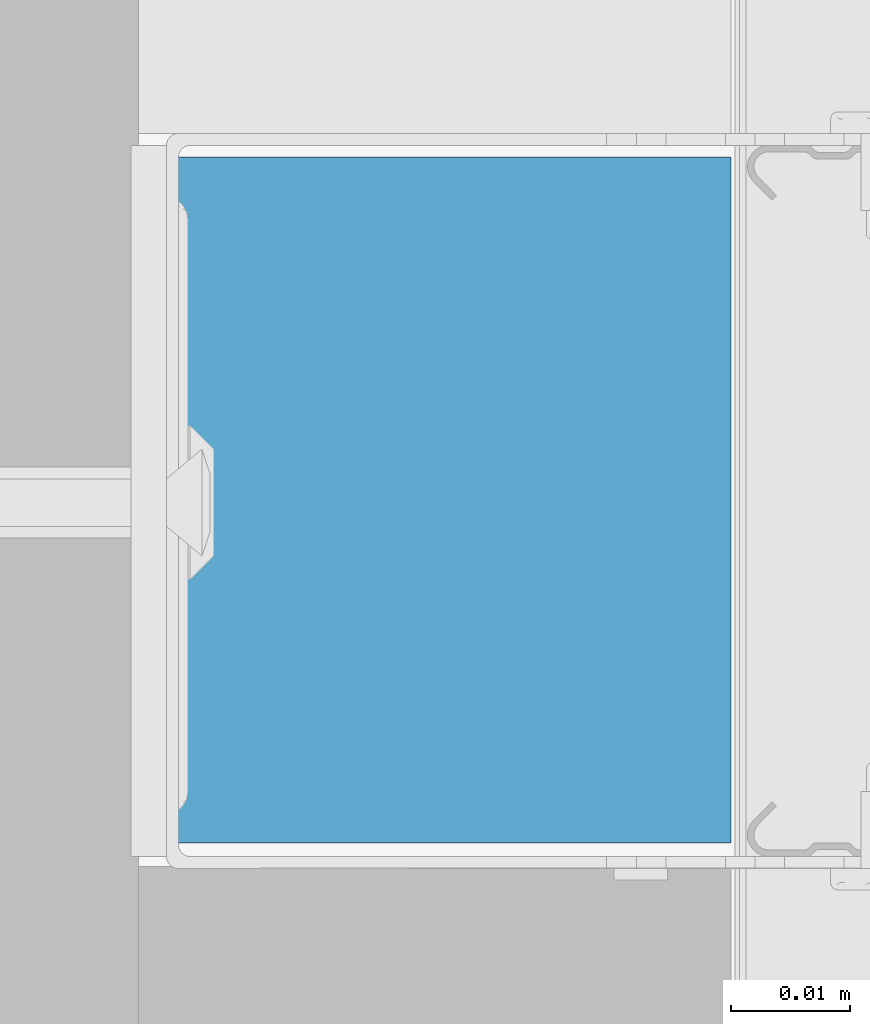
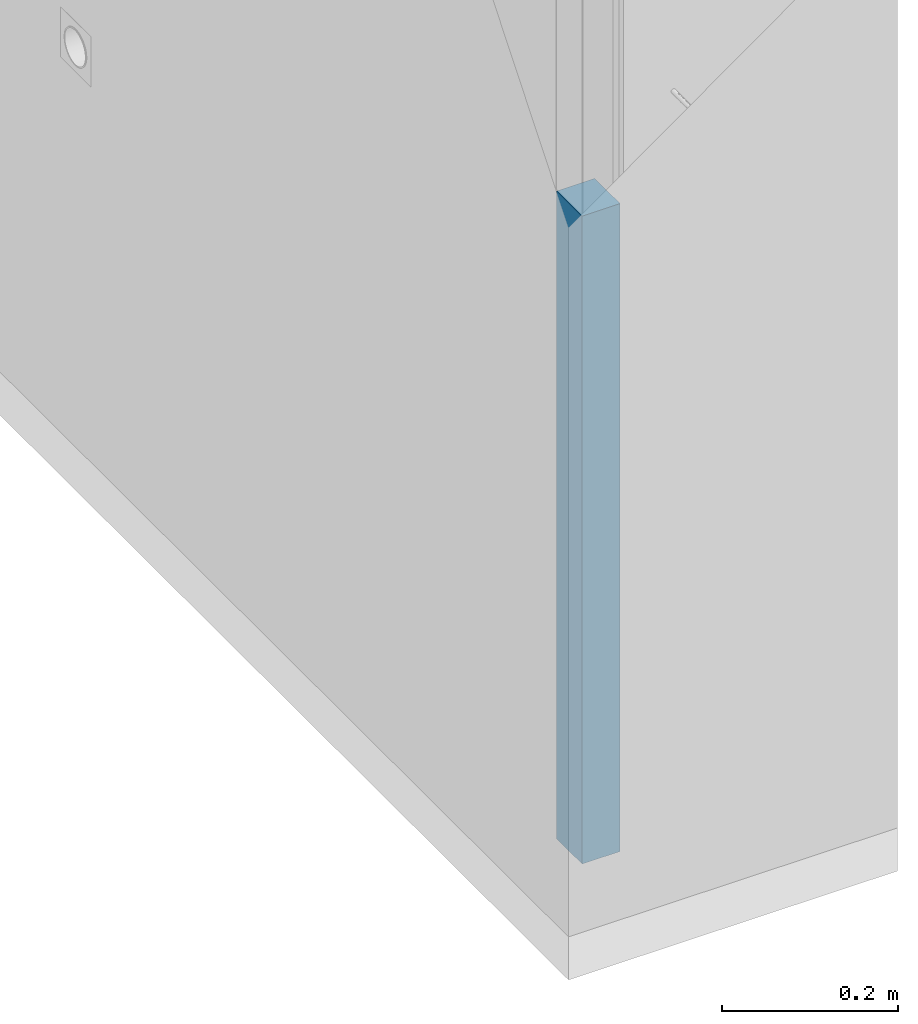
# One storey, part 7 of 61: 1 wall.
"""IFC2X3 building model written with IfcOpenShell, lengths in millimetres."""

from ifc_helpers import new_model, si_unit, frame, origin_with_axes, place, context, subcontext, project, spatial, faceted_brep, material, type_object, element, save


model = new_model("IFC2X3")

# Units and contexts
model_context = context("Model", 3, world=origin_with_axes())
body_context = subcontext(model_context, "Body", "Model", "MODEL_VIEW")
ifc_project = project(units=[si_unit("LENGTHUNIT", "METRE", prefix="MILLI"), si_unit("AREAUNIT", "SQUARE_METRE"), si_unit("VOLUMEUNIT", "CUBIC_METRE")], contexts=[model_context])

# Site, building, storey
site_placement = place(None, frame((2152.1410261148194, -2015.0250894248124, 57.61556563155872), z_axis=(0.0, 0.0, 1.0), x_axis=(-1.1102230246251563e-16, 1.0, 0.0)))
site = spatial("IfcSite", under=ifc_project, at=site_placement, Name="Default Site", CompositionType="ELEMENT")
building_placement = place(site_placement, origin_with_axes())
building = spatial("IfcBuilding", under=site, at=building_placement, Name="Default Building", CompositionType="ELEMENT")
storey_placement = place(building_placement, origin_with_axes())
storey = spatial("IfcBuildingStorey", under=building, at=storey_placement, Name="Default Building Storey", CompositionType="ELEMENT", Elevation=57.61556563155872)

# Wall
ifc_material = material(Name="Default")
wall_type = type_object("IfcWallType", Name="Wypełnienie z wełny mineralnej szklanej ISOVER#12", PredefinedType="NOTDEFINED")
wall_placement = place(storey_placement, frame((2041.0623067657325, 5350.424146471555, -7.900000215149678), z_axis=(0.0, 0.0, 1.0), x_axis=(-1.0, 4.718447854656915e-16, 0.0)))
element("IfcWall", 1, at=wall_placement, inside=storey, type_object=wall_type, material=ifc_material, Name="Wypełnienie z wełny mineralnej szklanej ISOVER", context=body_context, shape_type="Brep", body=[
    faceted_brep([(-168.12478005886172, 3328.2832634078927, -51.71597384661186), (-168.12478005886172, 3328.2832634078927, 849.5436077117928), (-225.97478152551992, 3328.2832634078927, 849.5436077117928), (-225.97478152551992, 3328.2832634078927, -51.71597384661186), (-225.97478152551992, 3378.283168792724, 849.5436077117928), (-168.124780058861, 3378.283168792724, 849.5436077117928), (-168.124780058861, 3378.283168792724, -51.71597384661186), (-225.97478152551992, 3378.283168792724, -51.71597384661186)], [[[0, 1, 2, 3]], [[4, 5, 6, 7]], [[7, 6, 0, 3]]]),
    faceted_brep([(-168.12478005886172, 3328.2832634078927, -51.71597384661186), (-168.124780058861, 3378.283168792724, -51.71597384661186), (-168.124780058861, 3378.283168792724, 849.5436077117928), (-168.12478005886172, 3328.2832634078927, 849.5436077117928), (-225.97478152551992, 3328.2832634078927, 849.5436077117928), (-225.97478152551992, 3378.283168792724, 849.5436077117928), (-225.97478152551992, 3378.283168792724, -51.71597384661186), (-225.97478152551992, 3328.2832634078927, -51.71597384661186)], [[[0, 1, 2, 3]], [[4, 5, 6, 7]], [[5, 4, 3, 2]]]),
])

save(model, "model.ifc")
